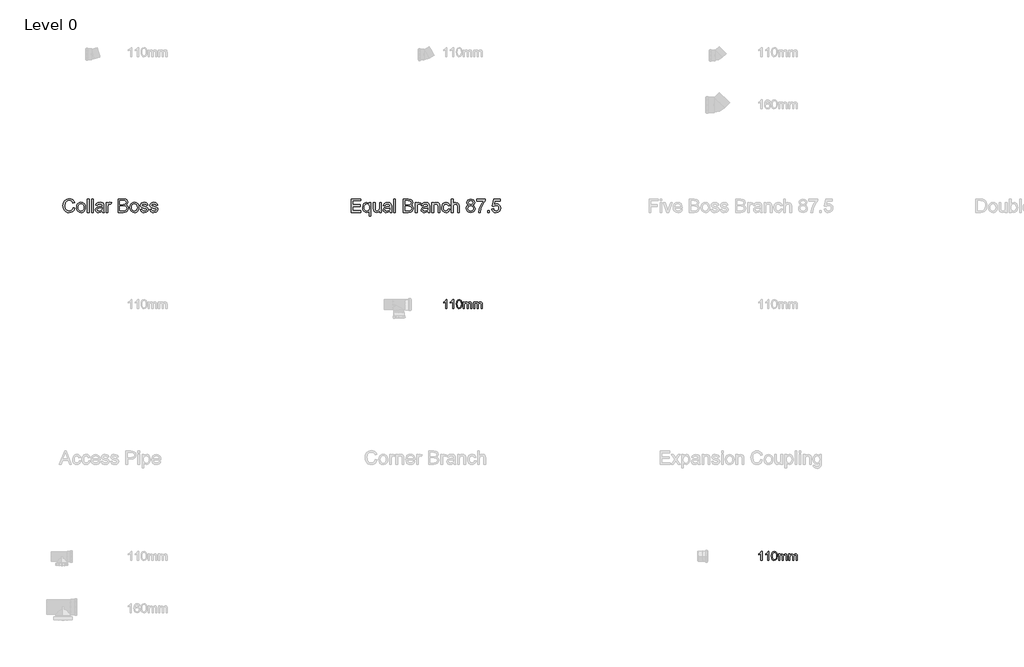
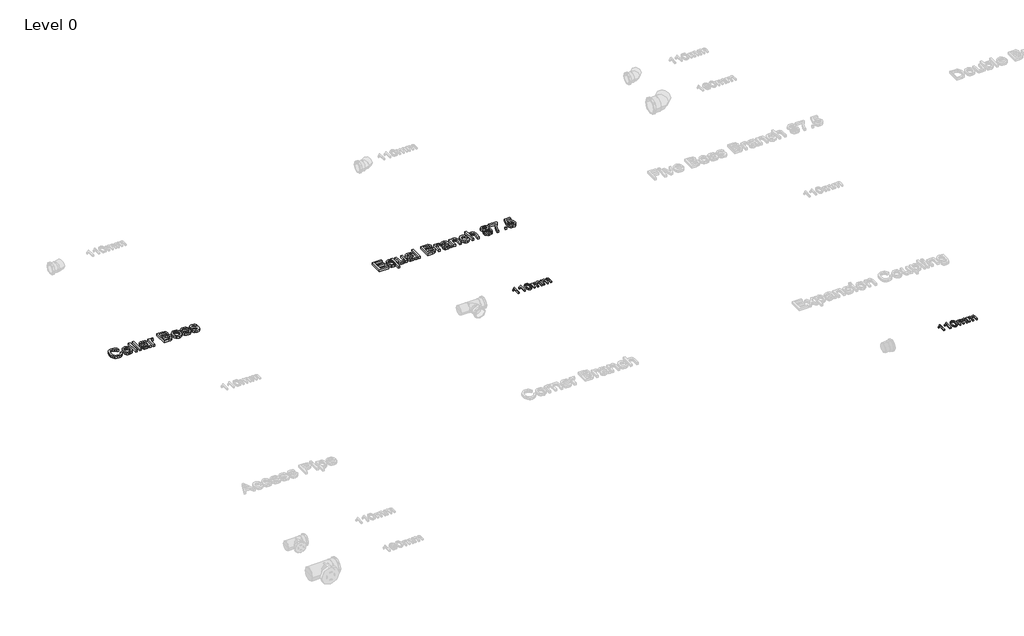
# One storey, part 8 of 15: 4 proxies.
"""IFC4 building model written with IfcOpenShell, lengths in millimetres."""

from ifc_helpers import new_model, si_unit, origin, origin_with_axes, place, context, project, spatial, polyline, outline, extrude, element, save

model = new_model("IFC4")

# Units and contexts
model_context = context("Model", 3, world=origin())
ifc_project = project(units=[si_unit("LENGTHUNIT", "METRE", prefix="MILLI")], contexts=[model_context])

# Site, building, storey
site = spatial("IfcSite", under=ifc_project)
building = spatial("IfcBuilding", under=site)
storey = spatial("IfcBuildingStorey", under=building, Name="Level 0", Elevation=0.0)

# Proxies
placement = place(None, origin())
element("IfcBuildingElementProxy", 1, Name="100mm Arial", ObjectType="100mm Arial", at=placement, inside=storey, context=model_context, shape_type="SweptSolid", body=[
    extrude(outline(polyline([(-10291.7293188, 5437.7167304), (-10304.0370111, 5437.7167304), (-10304.0370111, 5514.4474996), (-10315.6956649, 5506.1422111), (-10328.6523957, 5499.9282688), (-10328.6523957, 5511.5628842), (-10310.6115303, 5523.0773073), (-10299.6620111, 5536.1782688), (-10291.7293188, 5536.1782688), (-10291.7293188, 5437.7167304)])), origin_with_axes(), (0.0, 0.0, 1.0), 15.0),
    extrude(outline(polyline([(-10216.3447034, 5437.7167304), (-10228.6523957, 5437.7167304), (-10228.6523957, 5514.4474996), (-10240.3110495, 5506.1422111), (-10253.2677803, 5499.9282688), (-10253.2677803, 5511.5628842), (-10235.2269149, 5523.0773073), (-10224.2773957, 5536.1782688), (-10216.3447034, 5536.1782688), (-10216.3447034, 5437.7167304)])), origin_with_axes(), (0.0, 0.0, 1.0), 15.0),
    extrude(outline(polyline([(-10187.1139341, 5486.1542304), (-10183.4961457, 5514.4835573), (-10172.7509534, 5530.8176919), (-10154.8062418, 5536.1782688), (-10140.4312418, 5533.0051919), (-10130.5033572, 5523.8585573), (-10124.7341264, 5509.2912496), (-10122.4985495, 5486.1542304), (-10126.0802803, 5457.9450958), (-10136.7894149, 5441.5749035), (-10154.8062418, 5436.1782688), (-10167.5947034, 5438.5220188), (-10177.3062418, 5445.5532688), (-10184.6620111, 5462.2059131), (-10187.1139341, 5486.1542304)]), holes=[polyline([(-10174.8062418, 5486.1782688), (-10173.3639341, 5466.8182929), (-10169.0370111, 5455.613365), (-10162.5947034, 5450.2678121), (-10154.8062418, 5448.4859611), (-10147.0177803, 5450.2738217), (-10140.5754726, 5455.6374035), (-10136.2485495, 5466.848341), (-10134.8062418, 5486.1782688), (-10136.2004726, 5505.1025477), (-10140.3831649, 5516.394615), (-10146.8134534, 5522.0015861), (-10154.9504726, 5523.8705765), (-10162.6547995, 5522.2239419), (-10168.8447034, 5517.2840381), (-10173.3158572, 5505.2888458), (-10174.8062418, 5486.1782688)])]), origin_with_axes(), (0.0, 0.0, 1.0), 15.0),
    extrude(outline(polyline([(-10108.6523957, 5437.7167304), (-10108.6523957, 5510.0244227), (-10096.3447034, 5510.0244227), (-10096.3447034, 5498.1253842), (-10087.8831649, 5507.8729804), (-10075.8398957, 5511.5628842), (-10063.5081649, 5507.800865), (-10056.7293188, 5497.2599996), (-10047.1259534, 5507.9871631), (-10034.9985495, 5511.5628842), (-10025.7467466, 5510.0755044), (-10018.9047995, 5505.613365), (-10014.6770351, 5498.0562736), (-10013.2677803, 5487.2840381), (-10013.2677803, 5437.7167304), (-10025.5754726, 5437.7167304), (-10025.5754726, 5481.9955765), (-10026.7172995, 5492.2720188), (-10030.8519149, 5497.332115), (-10037.8831649, 5499.2551919), (-10049.9865303, 5494.3273073), (-10054.8062418, 5478.5340381), (-10054.8062418, 5437.7167304), (-10067.1139341, 5437.7167304), (-10067.1139341, 5483.3657688), (-10069.9624918, 5495.2888458), (-10079.3014341, 5499.2551919), (-10088.4120111, 5496.6109611), (-10094.4697034, 5488.8705765), (-10096.3447034, 5474.1830765), (-10096.3447034, 5437.7167304), (-10108.6523957, 5437.7167304)])), origin_with_axes(), (0.0, 0.0, 1.0), 15.0),
    extrude(outline(polyline([(-9994.8062418, 5437.7167304), (-9994.8062418, 5510.0244227), (-9982.4985495, 5510.0244227), (-9982.4985495, 5498.1253842), (-9974.0370111, 5507.8729804), (-9961.9937418, 5511.5628842), (-9949.6620111, 5507.800865), (-9942.8831649, 5497.2599996), (-9933.2797995, 5507.9871631), (-9921.1523957, 5511.5628842), (-9911.9005928, 5510.0755044), (-9905.0586457, 5505.613365), (-9900.8308813, 5498.0562736), (-9899.4216264, 5487.2840381), (-9899.4216264, 5437.7167304), (-9911.7293188, 5437.7167304), (-9911.7293188, 5481.9955765), (-9912.8711457, 5492.2720188), (-9917.0057611, 5497.332115), (-9924.0370111, 5499.2551919), (-9936.1403764, 5494.3273073), (-9940.960088, 5478.5340381), (-9940.960088, 5437.7167304), (-9953.2677803, 5437.7167304), (-9953.2677803, 5483.3657688), (-9956.116338, 5495.2888458), (-9965.4552803, 5499.2551919), (-9974.5658572, 5496.6109611), (-9980.6235495, 5488.8705765), (-9982.4985495, 5474.1830765), (-9982.4985495, 5437.7167304), (-9994.8062418, 5437.7167304)])), origin_with_axes(), (0.0, 0.0, 1.0), 15.0),
])
element("IfcBuildingElementProxy", 2, Name="100mm Arial", ObjectType="100mm Arial", at=placement, inside=storey, context=model_context, shape_type="SweptSolid", body=[
    extrude(outline(polyline([(-6791.7293188, 2637.7167304), (-6804.0370111, 2637.7167304), (-6804.0370111, 2714.4474996), (-6815.6956649, 2706.1422111), (-6828.6523957, 2699.9282688), (-6828.6523957, 2711.5628842), (-6810.6115303, 2723.0773073), (-6799.6620111, 2736.1782688), (-6791.7293188, 2736.1782688), (-6791.7293188, 2637.7167304)])), origin_with_axes(), (0.0, 0.0, 1.0), 15.0),
    extrude(outline(polyline([(-6716.3447034, 2637.7167304), (-6728.6523957, 2637.7167304), (-6728.6523957, 2714.4474996), (-6740.3110495, 2706.1422111), (-6753.2677803, 2699.9282688), (-6753.2677803, 2711.5628842), (-6735.2269149, 2723.0773073), (-6724.2773957, 2736.1782688), (-6716.3447034, 2736.1782688), (-6716.3447034, 2637.7167304)])), origin_with_axes(), (0.0, 0.0, 1.0), 15.0),
    extrude(outline(polyline([(-6687.1139341, 2686.1542304), (-6683.4961457, 2714.4835573), (-6672.7509534, 2730.8176919), (-6654.8062418, 2736.1782688), (-6640.4312418, 2733.0051919), (-6630.5033572, 2723.8585573), (-6624.7341264, 2709.2912496), (-6622.4985495, 2686.1542304), (-6626.0802803, 2657.9450958), (-6636.7894149, 2641.5749035), (-6654.8062418, 2636.1782688), (-6667.5947034, 2638.5220188), (-6677.3062418, 2645.5532688), (-6684.6620111, 2662.2059131), (-6687.1139341, 2686.1542304)]), holes=[polyline([(-6674.8062418, 2686.1782688), (-6673.3639341, 2666.8182929), (-6669.0370111, 2655.613365), (-6662.5947034, 2650.2678121), (-6654.8062418, 2648.4859611), (-6647.0177803, 2650.2738217), (-6640.5754726, 2655.6374035), (-6636.2485495, 2666.848341), (-6634.8062418, 2686.1782688), (-6636.2004726, 2705.1025477), (-6640.3831649, 2716.394615), (-6646.8134534, 2722.0015861), (-6654.9504726, 2723.8705765), (-6662.6547995, 2722.2239419), (-6668.8447034, 2717.2840381), (-6673.3158572, 2705.2888458), (-6674.8062418, 2686.1782688)])]), origin_with_axes(), (0.0, 0.0, 1.0), 15.0),
    extrude(outline(polyline([(-6608.6523957, 2637.7167304), (-6608.6523957, 2710.0244227), (-6596.3447034, 2710.0244227), (-6596.3447034, 2698.1253842), (-6587.8831649, 2707.8729804), (-6575.8398957, 2711.5628842), (-6563.5081649, 2707.800865), (-6556.7293188, 2697.2599996), (-6547.1259534, 2707.9871631), (-6534.9985495, 2711.5628842), (-6525.7467466, 2710.0755044), (-6518.9047995, 2705.613365), (-6514.6770351, 2698.0562736), (-6513.2677803, 2687.2840381), (-6513.2677803, 2637.7167304), (-6525.5754726, 2637.7167304), (-6525.5754726, 2681.9955765), (-6526.7172995, 2692.2720188), (-6530.8519149, 2697.332115), (-6537.8831649, 2699.2551919), (-6549.9865303, 2694.3273073), (-6554.8062418, 2678.5340381), (-6554.8062418, 2637.7167304), (-6567.1139341, 2637.7167304), (-6567.1139341, 2683.3657688), (-6569.9624918, 2695.2888458), (-6579.3014341, 2699.2551919), (-6588.4120111, 2696.6109611), (-6594.4697034, 2688.8705765), (-6596.3447034, 2674.1830765), (-6596.3447034, 2637.7167304), (-6608.6523957, 2637.7167304)])), origin_with_axes(), (0.0, 0.0, 1.0), 15.0),
    extrude(outline(polyline([(-6494.8062418, 2637.7167304), (-6494.8062418, 2710.0244227), (-6482.4985495, 2710.0244227), (-6482.4985495, 2698.1253842), (-6474.0370111, 2707.8729804), (-6461.9937418, 2711.5628842), (-6449.6620111, 2707.800865), (-6442.8831649, 2697.2599996), (-6433.2797995, 2707.9871631), (-6421.1523957, 2711.5628842), (-6411.9005928, 2710.0755044), (-6405.0586457, 2705.613365), (-6400.8308813, 2698.0562736), (-6399.4216264, 2687.2840381), (-6399.4216264, 2637.7167304), (-6411.7293188, 2637.7167304), (-6411.7293188, 2681.9955765), (-6412.8711457, 2692.2720188), (-6417.0057611, 2697.332115), (-6424.0370111, 2699.2551919), (-6436.1403764, 2694.3273073), (-6440.960088, 2678.5340381), (-6440.960088, 2637.7167304), (-6453.2677803, 2637.7167304), (-6453.2677803, 2683.3657688), (-6456.116338, 2695.2888458), (-6465.4552803, 2699.2551919), (-6474.5658572, 2696.6109611), (-6480.6235495, 2688.8705765), (-6482.4985495, 2674.1830765), (-6482.4985495, 2637.7167304), (-6494.8062418, 2637.7167304)])), origin_with_axes(), (0.0, 0.0, 1.0), 15.0),
])
element("IfcBuildingElementProxy", 3, Name="150mm Arial", ObjectType="150mm Arial", at=placement, inside=storey, context=model_context, shape_type="SweptSolid", body=[
    extrude(outline(polyline([(-11354.0664512, 6505.2145219), (-11354.0664512, 6652.9068296), (-11247.912605, 6652.9068296), (-11247.912605, 6634.4452911), (-11335.6049127, 6634.4452911), (-11335.6049127, 6590.5991373), (-11252.5279897, 6590.5991373), (-11252.5279897, 6572.1375988), (-11335.6049127, 6572.1375988), (-11335.6049127, 6523.6760604), (-11245.6049127, 6523.6760604), (-11245.6049127, 6505.2145219), (-11354.0664512, 6505.2145219)])), origin_with_axes(), (0.0, 0.0, 1.0), 25.0),
    extrude(outline(polyline([(-11153.2972204, 6463.6760604), (-11153.2972204, 6519.9981758), (-11165.0159704, 6507.7746181), (-11181.0255858, 6502.9068296), (-11198.5766675, 6506.7514811), (-11213.5135666, 6518.2854354), (-11223.7359223, 6536.5171061), (-11227.1433743, 6560.4549065), (-11221.7347204, 6589.697695), (-11215.1091195, 6601.0738969), (-11206.0496243, 6609.3130796), (-11195.2773887, 6614.3160844), (-11183.5135666, 6615.9837527), (-11166.350105, 6610.8094738), (-11153.2972204, 6595.2866373), (-11153.2972204, 6613.6760604), (-11134.835682, 6613.6760604), (-11134.835682, 6463.6760604), (-11153.2972204, 6463.6760604)]), holes=[polyline([(-11208.6818358, 6559.4452911), (-11206.6040113, 6542.7866373), (-11200.3705377, 6530.8875988), (-11191.2344199, 6523.7481758), (-11180.4486627, 6521.3683681), (-11170.1136267, 6523.6309883), (-11161.320057, 6530.4188488), (-11155.3029296, 6541.8311085), (-11153.2972204, 6557.9669258), (-11155.4111026, 6575.2160243), (-11161.7527493, 6587.58832), (-11170.9429536, 6595.0387407), (-11181.6025089, 6597.5222142), (-11192.0637469, 6595.2100147), (-11200.80323, 6588.2734161), (-11206.7121844, 6576.4419859), (-11208.6818358, 6559.4452911)])]), origin_with_axes(), (0.0, 0.0, 1.0), 25.0),
    extrude(outline(polyline([(-11037.912605, 6505.2145219), (-11037.912605, 6523.8563488), (-11052.3717397, 6508.1442094), (-11071.2299127, 6502.9068296), (-11088.5916916, 6506.5847142), (-11100.5628454, 6515.8154835), (-11106.0616435, 6529.4092335), (-11107.1433743, 6546.572695), (-11107.1433743, 6613.6760604), (-11088.6818358, 6613.6760604), (-11088.6818358, 6555.2625988), (-11087.5640473, 6536.4404835), (-11080.2623647, 6525.3888008), (-11066.506355, 6521.3683681), (-11051.0916916, 6525.478945), (-11040.9053935, 6536.6748585), (-11037.912605, 6557.2457719), (-11037.912605, 6613.6760604), (-11019.4510666, 6613.6760604), (-11019.4510666, 6505.2145219), (-11037.912605, 6505.2145219)])), origin_with_axes(), (0.0, 0.0, 1.0), 25.0),
    extrude(outline(polyline([(-10924.835682, 6519.0606758), (-10942.7383262, 6506.5486565), (-10962.5159704, 6502.9068296), (-10977.9441555, 6505.0973344), (-10989.3248647, 6511.6688488), (-10996.342593, 6521.6478152), (-10998.6818358, 6534.0606758), (-10995.148182, 6548.6640411), (-10985.8633262, 6559.2650027), (-10972.9366435, 6565.322695), (-10956.9630858, 6568.0991373), (-10924.943855, 6574.4452911), (-10924.835682, 6578.5558681), (-10926.1067156, 6586.7950508), (-10929.9198166, 6592.1856758), (-10938.4474608, 6596.1880796), (-10950.3284704, 6597.5222142), (-10969.006355, 6593.9705315), (-10977.912605, 6581.3683681), (-10996.3741435, 6583.6760604), (-10988.3873647, 6601.7049065), (-10972.3056339, 6612.2698104), (-10947.9486627, 6615.9837527), (-10925.5748647, 6612.7025027), (-10912.9366435, 6604.46332), (-10907.2755858, 6591.9332719), (-10906.3741435, 6575.7794258), (-10906.3741435, 6552.8106758), (-10905.4366435, 6520.7373585), (-10901.7587589, 6505.2145219), (-10920.2202973, 6505.2145219), (-10924.835682, 6519.0606758)]), holes=[polyline([(-10924.835682, 6555.9837527), (-10954.6193358, 6550.322695), (-10970.5027493, 6547.3299065), (-10977.6962589, 6542.4621181), (-10980.2202973, 6535.3587527), (-10974.7214993, 6525.3707719), (-10958.585682, 6521.3683681), (-10939.9077973, 6525.7854354), (-10927.8645281, 6536.4765411), (-10924.943855, 6550.7553873), (-10924.835682, 6555.9837527)])]), origin_with_axes(), (0.0, 0.0, 1.0), 25.0),
    extrude(outline(polyline([(-10880.9895281, 6505.2145219), (-10880.9895281, 6652.9068296), (-10862.5279897, 6652.9068296), (-10862.5279897, 6505.2145219), (-10880.9895281, 6505.2145219)])), origin_with_axes(), (0.0, 0.0, 1.0), 25.0),
    extrude(outline(polyline([(-10774.835682, 6505.2145219), (-10774.835682, 6652.9068296), (-10718.4775089, 6652.9068296), (-10690.8753454, 6648.5618777), (-10681.5995041, 6643.049558), (-10674.5772685, 6635.2025027), (-10668.6818358, 6616.3082719), (-10673.6397685, 6599.0546661), (-10688.6217397, 6585.9837527), (-10678.1605017, 6580.5210123), (-10670.4306339, 6572.2097142), (-10665.6574969, 6561.5997383), (-10664.0664512, 6549.2409642), (-10668.4114031, 6529.3912046), (-10679.1746243, 6515.2565892), (-10695.2383262, 6507.7565892), (-10718.9102012, 6505.2145219), (-10774.835682, 6505.2145219)]), holes=[polyline([(-10756.3741435, 6523.6760604), (-10718.5135666, 6523.6760604), (-10704.8116435, 6524.3972142), (-10693.2190954, 6528.4176469), (-10685.538807, 6536.6207719), (-10682.5279897, 6549.0606758), (-10686.0616435, 6563.4116373), (-10697.5099608, 6571.9753392), (-10720.3164512, 6574.4452911), (-10756.3741435, 6574.4452911), (-10756.3741435, 6523.6760604)]), polyline([(-10756.3741435, 6592.9068296), (-10722.6602012, 6592.9068296), (-10702.9727012, 6594.4933681), (-10691.1277493, 6601.3263008), (-10687.1433743, 6613.3515411), (-10690.8573166, 6625.3948104), (-10701.4943358, 6632.5162046), (-10725.2202973, 6634.4452911), (-10756.3741435, 6634.4452911), (-10756.3741435, 6592.9068296)])]), origin_with_axes(), (0.0, 0.0, 1.0), 25.0),
    extrude(outline(polyline([(-10640.9895281, 6505.2145219), (-10640.9895281, 6613.6760604), (-10624.835682, 6613.6760604), (-10624.835682, 6597.6303873), (-10613.3693358, 6612.4140411), (-10601.8308743, 6615.9837527), (-10583.2972204, 6610.2866373), (-10589.4630858, 6593.7361565), (-10602.443855, 6597.5222142), (-10612.882557, 6593.8803873), (-10619.5352012, 6583.7842335), (-10622.5279897, 6562.2217335), (-10622.5279897, 6505.2145219), (-10640.9895281, 6505.2145219)])), origin_with_axes(), (0.0, 0.0, 1.0), 25.0),
    extrude(outline(polyline([(-10502.5279897, 6519.0606758), (-10520.4306339, 6506.5486565), (-10540.2082781, 6502.9068296), (-10555.6364632, 6505.0973344), (-10567.0171723, 6511.6688488), (-10574.0349007, 6521.6478152), (-10576.3741435, 6534.0606758), (-10572.8404897, 6548.6640411), (-10563.5556339, 6559.2650027), (-10550.6289512, 6565.322695), (-10534.6553935, 6568.0991373), (-10502.6361627, 6574.4452911), (-10502.5279897, 6578.5558681), (-10503.7990233, 6586.7950508), (-10507.6121243, 6592.1856758), (-10516.1397685, 6596.1880796), (-10528.0207781, 6597.5222142), (-10546.6986627, 6593.9705315), (-10555.6049127, 6581.3683681), (-10574.0664512, 6583.6760604), (-10566.0796723, 6601.7049065), (-10549.9979416, 6612.2698104), (-10525.6409704, 6615.9837527), (-10503.2671723, 6612.7025027), (-10490.6289512, 6604.46332), (-10484.9678935, 6591.9332719), (-10484.0664512, 6575.7794258), (-10484.0664512, 6552.8106758), (-10483.1289512, 6520.7373585), (-10479.4510666, 6505.2145219), (-10497.912605, 6505.2145219), (-10502.5279897, 6519.0606758)]), holes=[polyline([(-10502.5279897, 6555.9837527), (-10532.3116435, 6550.322695), (-10548.195057, 6547.3299065), (-10555.3885666, 6542.4621181), (-10557.912605, 6535.3587527), (-10552.413807, 6525.3707719), (-10536.2779897, 6521.3683681), (-10517.600105, 6525.7854354), (-10505.5568358, 6536.4765411), (-10502.6361627, 6550.7553873), (-10502.5279897, 6555.9837527)])]), origin_with_axes(), (0.0, 0.0, 1.0), 25.0),
    extrude(outline(polyline([(-10458.6818358, 6505.2145219), (-10458.6818358, 6613.6760604), (-10440.2202973, 6613.6760604), (-10440.2202973, 6598.5318296), (-10426.1037108, 6611.6207719), (-10406.8308743, 6615.9837527), (-10389.39698, 6612.4681277), (-10377.4979416, 6603.2373585), (-10371.9630858, 6589.6616373), (-10370.9895281, 6571.8130796), (-10370.9895281, 6505.2145219), (-10389.4510666, 6505.2145219), (-10389.4510666, 6569.3250988), (-10391.5784704, 6585.6592335), (-10399.0964993, 6594.2950508), (-10411.7707781, 6597.5222142), (-10422.5835786, 6595.7103152), (-10431.8008262, 6590.2746181), (-10438.1154296, 6579.7728152), (-10440.2202973, 6562.7625988), (-10440.2202973, 6505.2145219), (-10458.6818358, 6505.2145219)])), origin_with_axes(), (0.0, 0.0, 1.0), 25.0),
    extrude(outline(polyline([(-10276.3741435, 6544.4452911), (-10257.912605, 6542.1375988), (-10263.0598406, 6525.7178272), (-10272.7323166, 6513.3094738), (-10286.0195762, 6505.5074907), (-10302.0111627, 6502.9068296), (-10321.6490834, 6506.5351349), (-10337.0051531, 6517.4200508), (-10346.9165113, 6535.0838128), (-10350.2202973, 6559.0486565), (-10344.5772685, 6589.7157238), (-10337.4558743, 6601.2136205), (-10327.3777493, 6609.4212527), (-10315.3209584, 6614.3431277), (-10302.2635666, 6615.9837527), (-10286.6641074, 6613.7301469), (-10274.1926531, 6606.9693296), (-10265.2458382, 6596.0618777), (-10260.2202973, 6581.3683681), (-10278.6818358, 6579.0606758), (-10287.2455377, 6592.8888008), (-10302.1193358, 6597.5222142), (-10314.0499247, 6595.2415652), (-10323.5195762, 6588.3996181), (-10329.6989632, 6576.6267815), (-10331.7587589, 6559.5534642), (-10329.7440353, 6542.2502791), (-10323.6998647, 6530.4368777), (-10314.4014872, 6523.6354955), (-10302.6241435, 6521.3683681), (-10293.0643478, 6522.7836325), (-10285.226307, 6527.0294258), (-10279.5246844, 6534.213921), (-10276.3741435, 6544.4452911)])), origin_with_axes(), (0.0, 0.0, 1.0), 25.0),
    extrude(outline(polyline([(-10241.7587589, 6505.2145219), (-10241.7587589, 6652.9068296), (-10223.2972204, 6652.9068296), (-10223.2972204, 6598.603945), (-10208.9011868, 6611.6388008), (-10191.1698166, 6615.9837527), (-10170.4366435, 6611.2421661), (-10157.8525089, 6598.135195), (-10154.0664512, 6573.8683681), (-10154.0664512, 6505.2145219), (-10172.5279897, 6505.2145219), (-10172.5279897, 6571.9573104), (-10173.9973406, 6583.5138008), (-10178.4053935, 6591.4284642), (-10185.5087589, 6595.9987767), (-10195.0640473, 6597.5222142), (-10210.1902493, 6593.4116373), (-10220.2864031, 6582.2698104), (-10223.2972204, 6562.8347142), (-10223.2972204, 6505.2145219), (-10241.7587589, 6505.2145219)])), origin_with_axes(), (0.0, 0.0, 1.0), 25.0),
    extrude(outline(polyline([(-10048.7058743, 6586.5606758), (-10065.5267877, 6598.0270219), (-10070.9895281, 6615.8755796), (-10068.0147685, 6630.307671), (-10059.0904897, 6642.2337527), (-10045.2172925, 6650.2385604), (-10027.3957781, 6652.9068296), (-10009.4660906, 6650.1754594), (-9995.412605, 6641.9813488), (-9986.3260666, 6629.8659642), (-9983.2972204, 6615.3707719), (-9988.6878454, 6597.9729354), (-10005.0400089, 6586.5606758), (-9993.6773286, 6580.705808), (-9985.4065954, 6572.0835123), (-9980.3630257, 6561.1084522), (-9978.6818358, 6548.1952911), (-9982.0171723, 6530.5450508), (-9992.023182, 6515.9597142), (-10007.4739031, 6506.1700508), (-10027.1433743, 6502.9068296), (-10046.8128454, 6506.1835724), (-10062.2635666, 6516.0138008), (-10072.2695762, 6530.7388609), (-10075.6049127, 6548.7000988), (-10073.8561147, 6562.1135604), (-10068.6097204, 6573.1472142), (-10060.1361627, 6581.4224546), (-10048.7058743, 6586.5606758)]), holes=[polyline([(-10052.5279897, 6615.3347142), (-10050.8918719, 6607.27582), (-10045.9835185, 6600.8395219), (-10037.9471603, 6596.6207719), (-10026.9270281, 6595.2145219), (-10016.163807, 6596.6117575), (-10008.2491435, 6600.8034642), (-10003.381355, 6607.0234161), (-10001.7587589, 6614.5053873), (-10003.4354416, 6622.2713128), (-10008.4654897, 6628.6940892), (-10016.4883262, 6633.0074907), (-10027.1433743, 6634.4452911), (-10037.8660305, 6633.0390411), (-10045.8753454, 6628.8202911), (-10050.8648286, 6622.6363969), (-10052.5279897, 6615.3347142)]), polyline([(-10057.1433743, 6549.3491373), (-10054.0604416, 6535.4488969), (-10043.1529897, 6525.0462527), (-10026.9991435, 6521.3683681), (-10014.4330377, 6523.3019618), (-10005.0039512, 6529.1027431), (-9999.1085185, 6537.8872984), (-9997.1433743, 6548.7722142), (-9999.1716195, 6559.8419258), (-10005.256355, 6568.8202911), (-10014.9017877, 6574.7698104), (-10027.6121243, 6576.7529835), (-10040.0024488, 6574.7968536), (-10049.3368839, 6568.9284642), (-10055.1917517, 6560.1213729), (-10057.1433743, 6549.3491373)])]), origin_with_axes(), (0.0, 0.0, 1.0), 25.0),
    extrude(outline(polyline([(-9962.5279897, 6632.1375988), (-9962.5279897, 6650.5991373), (-9865.6049127, 6650.5991373), (-9865.6049127, 6635.6712527), (-9893.0989031, 6595.9537046), (-9914.1385666, 6545.3467335), (-9920.9895281, 6505.2145219), (-9939.4510666, 6505.2145219), (-9932.1133262, 6546.8611565), (-9911.975105, 6593.9344738), (-9884.0664512, 6632.1375988), (-9962.5279897, 6632.1375988)])), origin_with_axes(), (0.0, 0.0, 1.0), 25.0),
    extrude(outline(polyline([(-9840.2202973, 6505.2145219), (-9840.2202973, 6523.6760604), (-9821.7587589, 6523.6760604), (-9821.7587589, 6505.2145219), (-9840.2202973, 6505.2145219)])), origin_with_axes(), (0.0, 0.0, 1.0), 25.0),
    extrude(outline(polyline([(-9791.7587589, 6544.4452911), (-9773.2972204, 6546.7529835), (-9769.9077973, 6535.6697503), (-9763.9943358, 6527.7325508), (-9755.5838791, 6522.9594137), (-9744.7034704, 6521.3683681), (-9731.4702973, 6523.5814089), (-9721.554432, 6530.2205315), (-9715.3615233, 6540.5195099), (-9713.2972204, 6553.7121181), (-9715.2308142, 6566.1339931), (-9721.0315954, 6575.635195), (-9730.7446363, 6581.665844), (-9744.4150089, 6583.6760604), (-9760.6229416, 6580.4669258), (-9770.9895281, 6572.1375988), (-9789.4510666, 6574.4452911), (-9773.2972204, 6650.5991373), (-9701.7587589, 6650.5991373), (-9701.7587589, 6632.1375988), (-9758.3693358, 6632.1375988), (-9766.2659704, 6591.4645219), (-9753.0778695, 6599.4693296), (-9739.2587589, 6602.1375988), (-9722.0096603, 6598.8293056), (-9707.6902493, 6588.9044258), (-9698.0493238, 6573.7782238), (-9694.835682, 6554.8659642), (-9697.7293118, 6536.4044258), (-9706.4102012, 6520.6111565), (-9723.0327973, 6507.3329113), (-9744.7755858, 6502.9068296), (-9762.9080978, 6505.7508801), (-9777.3537108, 6514.2830315), (-9787.2560546, 6527.5116974), (-9791.7587589, 6544.4452911)])), origin_with_axes(), (0.0, 0.0, 1.0), 25.0),
])
element("IfcBuildingElementProxy", 4, Name="150mm Arial", ObjectType="150mm Arial", at=placement, inside=storey, context=model_context, shape_type="SweptSolid", body=[
    extrude(outline(polyline([(-14442.2715082, 6558.7781404), (-14423.43595, 6553.9220981), (-14432.1271622, 6531.9733385), (-14445.7663871, 6515.9382821), (-14463.6822403, 6506.1296284), (-14485.203337, 6502.8600771), (-14507.050929, 6505.3340836), (-14524.4011636, 6512.7561028), (-14537.7000977, 6524.8686175), (-14547.3937883, 6541.4141102), (-14553.3120899, 6560.8658707), (-14555.2848571, 6581.6971887), (-14553.0545725, 6603.6689409), (-14546.3637187, 6622.6424548), (-14535.5617836, 6638.0153237), (-14520.9982551, 6649.1851407), (-14503.7261955, 6655.9863591), (-14484.7986668, 6658.2534319), (-14464.1466913, 6655.319573), (-14447.0723682, 6646.5179963), (-14434.1091264, 6632.3913277), (-14425.7903948, 6613.4821931), (-14444.6259529, 6608.9940328), (-14451.1558584, 6622.7298268), (-14460.0769967, 6632.1522044), (-14471.4997327, 6637.6014564), (-14485.5344308, 6639.4178738), (-14501.7120415, 6637.4037198), (-14515.0017786, 6631.3612581), (-14525.0863438, 6621.9250849), (-14531.6484389, 6609.7297967), (-14536.4492989, 6581.7339769), (-14535.0283547, 6564.3331585), (-14530.7655221, 6549.2867849), (-14523.4998527, 6537.1696717), (-14513.0703981, 6528.5566345), (-14500.5670088, 6523.4108851), (-14487.0795352, 6521.6956353), (-14471.3571784, 6524.031686), (-14458.2559809, 6531.039838), (-14448.3645537, 6542.6465149), (-14442.2715082, 6558.7781404)])), origin_with_axes(), (0.0, 0.0, 1.0), 25.0),
    extrude(outline(polyline([(-14404.6003919, 6560.543974), (-14400.5260988, 6587.2246157), (-14388.3032195, 6605.9774004), (-14373.2016636, 6615.1652532), (-14355.1202635, 6618.2278708), (-14335.3328107, 6614.4984671), (-14319.5276805, 6603.3102559), (-14309.1672038, 6585.5461541), (-14305.7137116, 6562.0890784), (-14307.2404218, 6543.0603822), (-14311.8205527, 6528.5750286), (-14319.3207469, 6517.7271083), (-14329.6076471, 6509.6107118), (-14341.8259279, 6504.5477358), (-14355.1202635, 6502.8600771), (-14375.1468396, 6506.5756853), (-14390.9335757, 6517.7225098), (-14401.1836878, 6535.8590921), (-14404.6003919, 6560.543974)]), holes=[polyline([(-14385.7648337, 6560.5807622), (-14383.5851329, 6543.5340302), (-14377.0460304, 6531.3893259), (-14367.2051871, 6524.1190579), (-14355.1202635, 6521.6956353), (-14343.0905223, 6524.1328535), (-14333.268073, 6531.4445082), (-14326.7289705, 6543.7501609), (-14324.5492697, 6561.1693734), (-14326.7427661, 6577.7194646), (-14333.3232553, 6589.6986221), (-14343.1595001, 6596.96889), (-14355.1202635, 6599.3923127), (-14367.2051871, 6596.9780871), (-14377.0460304, 6589.7354103), (-14383.5851329, 6577.6182971), (-14385.7648337, 6560.5807622)])]), origin_with_axes(), (0.0, 0.0, 1.0), 25.0),
    extrude(outline(polyline([(-14284.5237086, 6505.2145219), (-14284.5237086, 6655.8989871), (-14265.6881505, 6655.8989871), (-14265.6881505, 6505.2145219), (-14284.5237086, 6505.2145219)])), origin_with_axes(), (0.0, 0.0, 1.0), 25.0),
    extrude(outline(polyline([(-14237.4348133, 6505.2145219), (-14237.4348133, 6655.8989871), (-14218.5992551, 6655.8989871), (-14218.5992551, 6505.2145219), (-14237.4348133, 6505.2145219)])), origin_with_axes(), (0.0, 0.0, 1.0), 25.0),
    extrude(outline(polyline([(-14119.7125748, 6519.3411905), (-14137.9779159, 6506.5756853), (-14158.1562433, 6502.8600771), (-14173.8969942, 6505.0949603), (-14185.5082696, 6511.7996096), (-14192.668173, 6521.9807438), (-14195.0548074, 6534.6450815), (-14191.4495639, 6549.5443023), (-14181.9766025, 6560.360033), (-14168.788033, 6566.5404505), (-14152.4908606, 6569.3731419), (-14119.8229394, 6575.847865), (-14119.7125748, 6580.0417197), (-14121.0093588, 6588.4478233), (-14124.8997109, 6593.9476592), (-14133.6001201, 6598.0311493), (-14145.7218319, 6599.3923127), (-14164.7781192, 6595.768675), (-14173.8648045, 6582.9111993), (-14192.7003626, 6585.2656441), (-14184.5517765, 6603.6597438), (-14168.1442395, 6614.4386863), (-14143.2938107, 6618.2278708), (-14120.4667329, 6614.8801447), (-14107.572469, 6606.4740411), (-14101.7967216, 6593.6901418), (-14100.8770166, 6577.2090284), (-14100.8770166, 6553.7749453), (-14099.9205235, 6521.0518418), (-14096.1681271, 6505.2145219), (-14115.0036853, 6505.2145219), (-14119.7125748, 6519.3411905)]), holes=[polyline([(-14119.7125748, 6557.0123068), (-14150.0996276, 6551.2365595), (-14166.3048295, 6548.183139), (-14173.6440753, 6543.216732), (-14176.2192493, 6535.9694567), (-14170.6090488, 6525.7791254), (-14154.1463295, 6521.6956353), (-14135.0900422, 6526.2021897), (-14122.8027836, 6537.1098909), (-14119.8229394, 6551.6780179), (-14119.7125748, 6557.0123068)])]), origin_with_axes(), (0.0, 0.0, 1.0), 25.0),
    extrude(outline(polyline([(-14074.9781242, 6505.2145219), (-14074.9781242, 6615.8734261), (-14058.4970108, 6615.8734261), (-14058.4970108, 6599.5026773), (-14046.7983634, 6614.5858391), (-14035.0261395, 6618.2278708), (-14016.117005, 6612.4153353), (-14022.4077871, 6595.5295517), (-14035.6515389, 6599.3923127), (-14046.3017227, 6595.6767045), (-14053.0891455, 6585.3760087), (-14056.142566, 6563.3766654), (-14056.142566, 6505.2145219), (-14074.9781242, 6505.2145219)])), origin_with_axes(), (0.0, 0.0, 1.0), 25.0),
    extrude(outline(polyline([(-13943.1292171, 6505.2145219), (-13943.1292171, 6655.8989871), (-13885.6292613, 6655.8989871), (-13857.4678945, 6651.4660091), (-13848.0041302, 6645.8420131), (-13840.8396284, 6637.8359812), (-13834.8247577, 6618.5589646), (-13839.8831352, 6600.9558112), (-13855.1686321, 6587.6200888), (-13844.4954557, 6582.0466766), (-13836.6089854, 6573.5669966), (-13831.7391475, 6562.7420689), (-13830.1158682, 6550.1329135), (-13834.5488462, 6529.8810097), (-13845.5301238, 6515.4600355), (-13861.9192667, 6507.80809), (-13886.0707197, 6505.2145219), (-13943.1292171, 6505.2145219)]), holes=[polyline([(-13924.293659, 6594.6834231), (-13889.8966924, 6594.6834231), (-13869.8103355, 6596.3021039), (-13857.7254119, 6603.2734677), (-13853.6603159, 6615.5423323), (-13857.4495004, 6627.8295909), (-13868.3020193, 6635.0952603), (-13892.5086546, 6637.063429), (-13924.293659, 6637.063429), (-13924.293659, 6594.6834231)]), polyline([(-13924.293659, 6524.0500801), (-13885.6660495, 6524.0500801), (-13871.6865337, 6524.7858441), (-13859.8591275, 6528.8877283), (-13852.023241, 6537.2570437), (-13848.9514264, 6549.9489725), (-13852.5566699, 6564.5906759), (-13864.2369232, 6573.3278733), (-13887.5054594, 6575.847865), (-13924.293659, 6575.847865), (-13924.293659, 6524.0500801)])]), origin_with_axes(), (0.0, 0.0, 1.0), 25.0),
    extrude(outline(polyline([(-13811.28031, 6560.543974), (-13807.2060169, 6587.2246157), (-13794.9831377, 6605.9774004), (-13779.8815818, 6615.1652532), (-13761.8001817, 6618.2278708), (-13742.0127289, 6614.4984671), (-13726.2075987, 6603.3102559), (-13715.847122, 6585.5461541), (-13712.3936297, 6562.0890784), (-13713.92034, 6543.0603822), (-13718.5004709, 6528.5750286), (-13726.000665, 6517.7271083), (-13736.2875653, 6509.6107118), (-13748.5058461, 6504.5477358), (-13761.8001817, 6502.8600771), (-13781.8267578, 6506.5756853), (-13797.6134939, 6517.7225098), (-13807.863606, 6535.8590921), (-13811.28031, 6560.543974)]), holes=[polyline([(-13792.4447519, 6560.5807622), (-13790.2650511, 6543.5340302), (-13783.7259486, 6531.3893259), (-13773.8851052, 6524.1190579), (-13761.8001817, 6521.6956353), (-13749.7704405, 6524.1328535), (-13739.9479912, 6531.4445082), (-13733.4088887, 6543.7501609), (-13731.2291879, 6561.1693734), (-13733.4226843, 6577.7194646), (-13740.0031735, 6589.6986221), (-13749.8394183, 6596.96889), (-13761.8001817, 6599.3923127), (-13773.8851052, 6596.9780871), (-13783.7259486, 6589.7354103), (-13790.2650511, 6577.6182971), (-13792.4447519, 6560.5807622)])]), origin_with_axes(), (0.0, 0.0, 1.0), 25.0),
    extrude(outline(polyline([(-13698.2669611, 6538.1767487), (-13679.431403, 6540.5311935), (-13676.4607559, 6532.4745778), (-13670.7125997, 6526.5516776), (-13650.7366073, 6521.6956353), (-13631.5331672, 6526.1470074), (-13625.2791733, 6536.5948561), (-13626.8518688, 6541.3957161), (-13631.5699554, 6545.056142), (-13650.9573365, 6550.4272191), (-13679.3210384, 6559.6426631), (-13691.7002675, 6570.4032115), (-13695.9125164, 6585.5967379), (-13692.528002, 6599.631436), (-13683.2941639, 6610.3551961), (-13671.319605, 6615.9286084), (-13655.1144031, 6618.2278708), (-13632.1953548, 6614.5306568), (-13617.6272278, 6604.5242665), (-13611.1525047, 6587.6200888), (-13629.9880628, 6585.2656441), (-13637.0697912, 6595.6583104), (-13653.6428751, 6599.3923127), (-13671.6690929, 6595.8238573), (-13677.0769582, 6587.5097242), (-13674.832878, 6582.0282825), (-13667.8063319, 6577.871216), (-13651.5827359, 6573.8613022), (-13623.936404, 6564.9953461), (-13611.0973224, 6554.9521677), (-13606.4436151, 6538.5814189), (-13611.9066628, 6520.5552011), (-13627.6704063, 6507.4769962), (-13650.9941247, 6502.8600771), (-13669.9860327, 6505.0857632), (-13683.8459869, 6511.7628214), (-13693.0982191, 6522.8176754), (-13698.2669611, 6538.1767487)])), origin_with_axes(), (0.0, 0.0, 1.0), 25.0),
    extrude(outline(polyline([(-13592.3169465, 6538.1767487), (-13573.4813884, 6540.5311935), (-13570.5107413, 6532.4745778), (-13564.7625851, 6526.5516776), (-13544.7865927, 6521.6956353), (-13525.5831526, 6526.1470074), (-13519.3291587, 6536.5948561), (-13520.9018542, 6541.3957161), (-13525.6199408, 6545.056142), (-13545.0073219, 6550.4272191), (-13573.3710238, 6559.6426631), (-13585.7502529, 6570.4032115), (-13589.9625017, 6585.5967379), (-13586.5779874, 6599.631436), (-13577.3441493, 6610.3551961), (-13565.3695904, 6615.9286084), (-13549.1643885, 6618.2278708), (-13526.2453402, 6614.5306568), (-13511.6772132, 6604.5242665), (-13505.2024901, 6587.6200888), (-13524.0380482, 6585.2656441), (-13531.1197766, 6595.6583104), (-13547.6928605, 6599.3923127), (-13565.7190783, 6595.8238573), (-13571.1269436, 6587.5097242), (-13568.8828634, 6582.0282825), (-13561.8563173, 6577.871216), (-13545.6327213, 6573.8613022), (-13517.9863894, 6564.9953461), (-13505.1473078, 6554.9521677), (-13500.4936005, 6538.5814189), (-13505.9566481, 6520.5552011), (-13521.7203916, 6507.4769962), (-13545.0441101, 6502.8600771), (-13564.0360181, 6505.0857632), (-13577.8959723, 6511.7628214), (-13587.1482045, 6522.8176754), (-13592.3169465, 6538.1767487)])), origin_with_axes(), (0.0, 0.0, 1.0), 25.0),
])

save(model, "model.ifc")
